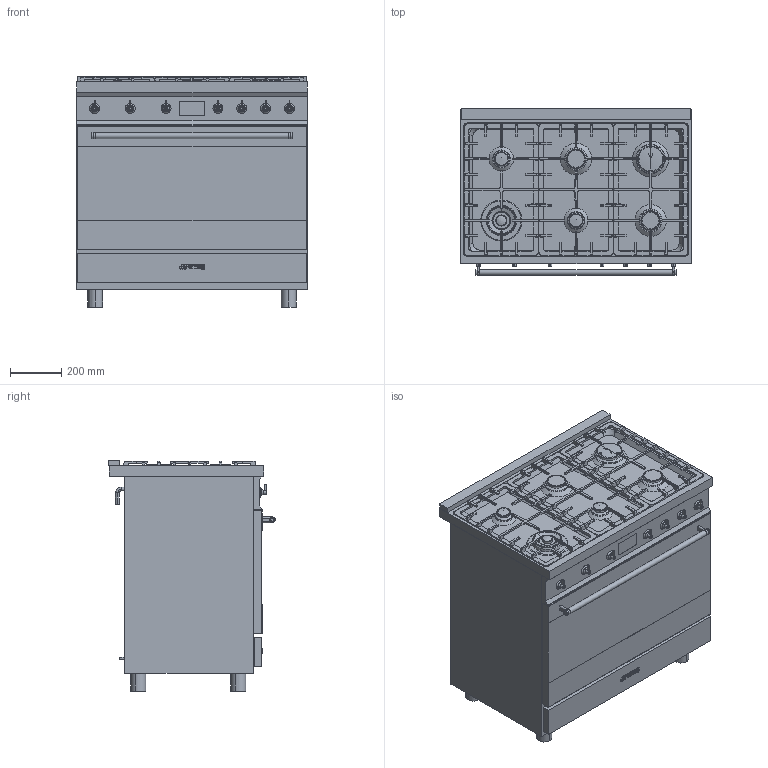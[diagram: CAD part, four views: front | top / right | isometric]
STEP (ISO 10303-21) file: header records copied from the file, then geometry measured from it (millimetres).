
FILE_DESCRIPTION(/* description */ ('Unknown'),/* implementation_level */ '2;1');
FILE_NAME(/* name */ 'C9GMX2',/* time_stamp */ '2025-04-09T16:02:30+02:00',/* author */ ('Unknown'),/* organization */ ('Unknown'),/* preprocessor_version */ 'ST-DEVELOPER v16.7',/* originating_system */ 'DEX',/* authorisation */ $);
FILE_SCHEMA (('AUTOMOTIVE_DESIGN {1 0 10303 214 3 1 1}'));
Products named in the file (1): C9GMX2
Bounding box: 898 x 648.14 x 898.62 mm (x, y, z)
Volume: 378770309.2 mm3; surface area: 7028137.3 mm2
Topology: 63 solids, 64 shells, 1259 faces, 3343 edges, 2235 vertices
Faces by surface type: plane 670, cylinder 394, bspline 161, cone 26, sphere 6, torus 2
Full cylindrical faces by diameter (mm): 8 x7, 8.5 x7, 8.828 x5, 8.863 x1, 10 x1, 13 x2, 13.5 x2, 14.995 x7, 22 x3, 28 x1, 55 x2, 65.5 x2, 75 x2, 85.5 x2, 110.5 x1, 113 x1
Entity records: 54135 total; most frequent: CARTESIAN_POINT 23462, ORIENTED_EDGE 6470, DIRECTION 5781, EDGE_CURVE 3235, VERTEX_POINT 2206, AXIS2_PLACEMENT_3D 1969, LINE 1843, VECTOR 1843
